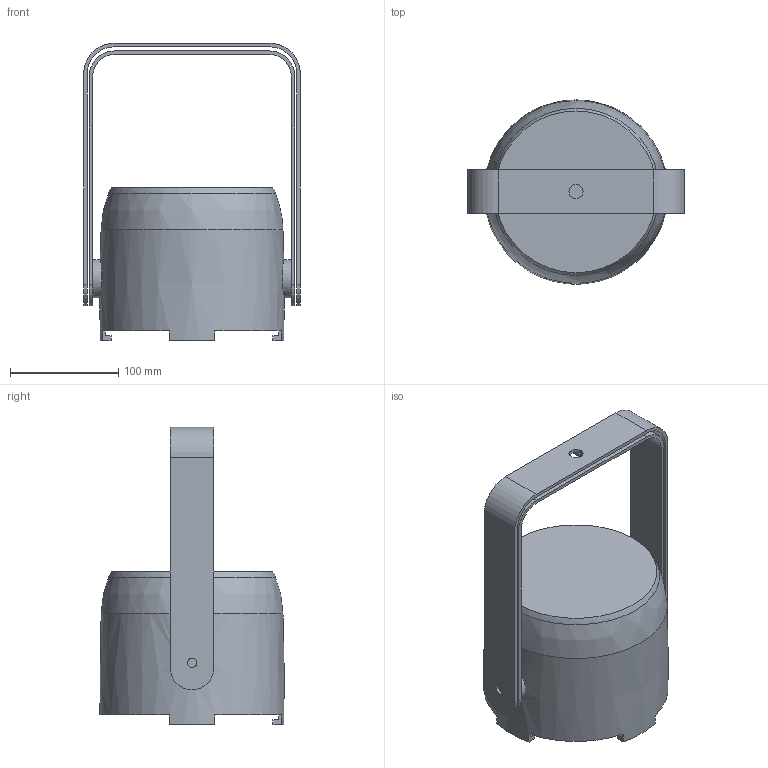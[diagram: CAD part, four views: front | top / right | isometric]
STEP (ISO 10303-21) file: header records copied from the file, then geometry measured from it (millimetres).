
FILE_DESCRIPTION(/* description */ (''),/* implementation_level */ '2;1');
FILE_NAME(/* name */ 'Colordash Par H7XIP_3D__0.stp',/* time_stamp */ '2023-01-11T11:01:24-05:00',/* author */ ('dgooch'),/* organization */ (''),/* preprocessor_version */ 'ST-DEVELOPER v19.2',/* originating_system */ 'Autodesk Inventor 2023',/* authorisation */ '');
FILE_SCHEMA (('AUTOMOTIVE_DESIGN { 1 0 10303 214 3 1 1 }'));
Length unit declared in the file: millimetre
Products named in the file (5): Colordash Par H7XIP; ASM0035_ASM (1); PRT0114 (1); PRT0115 (1); Component75
Assembly tree (4 placements, depth 3):
  Colordash Par H7XIP
    ASM0035_ASM (1)
      PRT0114 (1)
      PRT0115 (1)
    Component75
Bounding box: 199.8 x 169.89 x 274 mm (x, y, z)
Volume: 3044169.1 mm3; surface area: 225262.1 mm2
Topology: 3 solids, 3 shells, 66 faces, 173 edges, 116 vertices
Faces by surface type: plane 39, cylinder 24, bspline 3
Full cylindrical faces by diameter (mm): 8.5 x4, 13 x1, 35 x2, 135.213 x1
Entity records: 2537 total; most frequent: CARTESIAN_POINT 660, DIRECTION 370, ORIENTED_EDGE 346, EDGE_CURVE 173, AXIS2_PLACEMENT_3D 134, VERTEX_POINT 116, LINE 102, VECTOR 102
